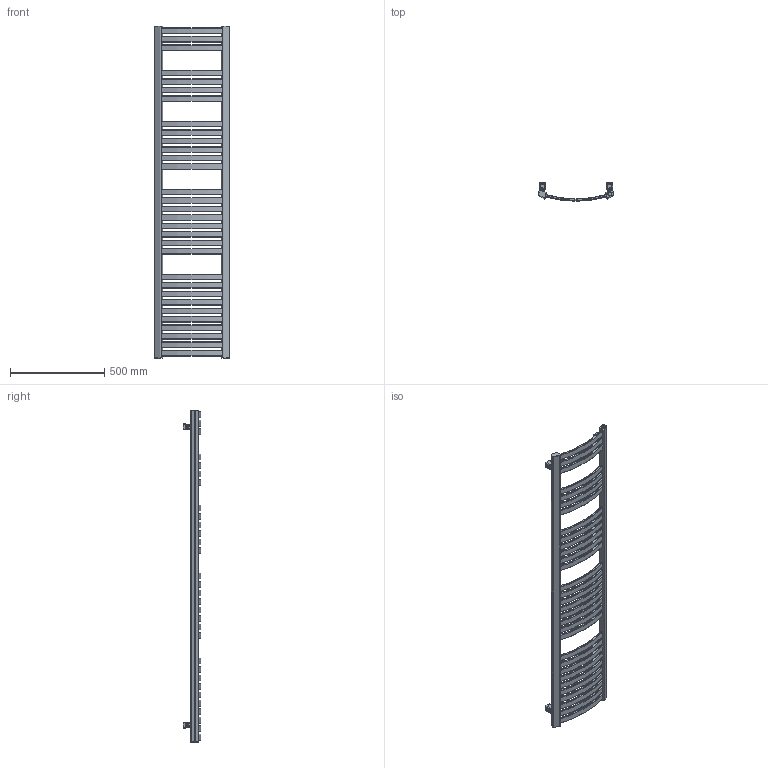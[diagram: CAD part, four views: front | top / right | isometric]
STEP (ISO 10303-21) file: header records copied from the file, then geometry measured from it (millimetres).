
FILE_DESCRIPTION((''),'2;1');
FILE_NAME('Z:\R\G\P\RGPH02 - Grzejnik Dexter\Work\Inventor\Marketing\Autocad\DE-1760-400 SX.stp','2012-07-12T13:31:07',('KurKa'),(''),'Autodesk Inventor 2012','Autodesk Inventor 2012','');
FILE_SCHEMA(('AUTOMOTIVE_DESIGN { 1 0 10303 214 1 1 1 1 }'));
Length unit declared in the file: millimetre
Products named in the file (10): DE-1760-400 SX; DE-1760-400-1-5-8; MKT42-00-B v0.2; MKT42-01 v0; MKT42-02-B v0; PN_M-82019; M6; NK-S10-M5-3-R; PN-87/M-82302 M5 x 22; PN-87/M-82302  M5 x 12; MKT42-03 v0.2
Assembly tree (12 placements, depth 3):
  DE-1760-400 SX
    DE-1760-400-1-5-8
    MKT42-00-B v0.2  x4
      MKT42-01 v0
      MKT42-02-B v0
      PN_M-82019; M6
      NK-S10-M5-3-R
      PN-87/M-82302 M5 x 22
      PN-87/M-82302  M5 x 12
      MKT42-03 v0.2
Bounding box: 399.85 x 95.38 x 1760 mm (x, y, z)
Volume: 7392180.1 mm3; surface area: 1333900.8 mm2
Topology: 29 solids, 29 shells, 1685 faces, 4615 edges, 3009 vertices
Faces by surface type: plane 1045, cylinder 389, torus 167, cone 44, bspline 40
Full cylindrical faces by diameter (mm): 4.134 x4, 5 x8, 5.5 x12, 6.3 x4, 8.5 x8, 10 x4, 18 x4, 18.631 x3
Entity records: 21768 total; most frequent: CARTESIAN_POINT 4199, DIRECTION 3808, ORIENTED_EDGE 3552, EDGE_CURVE 1776, AXIS2_PLACEMENT_3D 1425, VERTEX_POINT 1174, VECTOR 958, LINE 958
